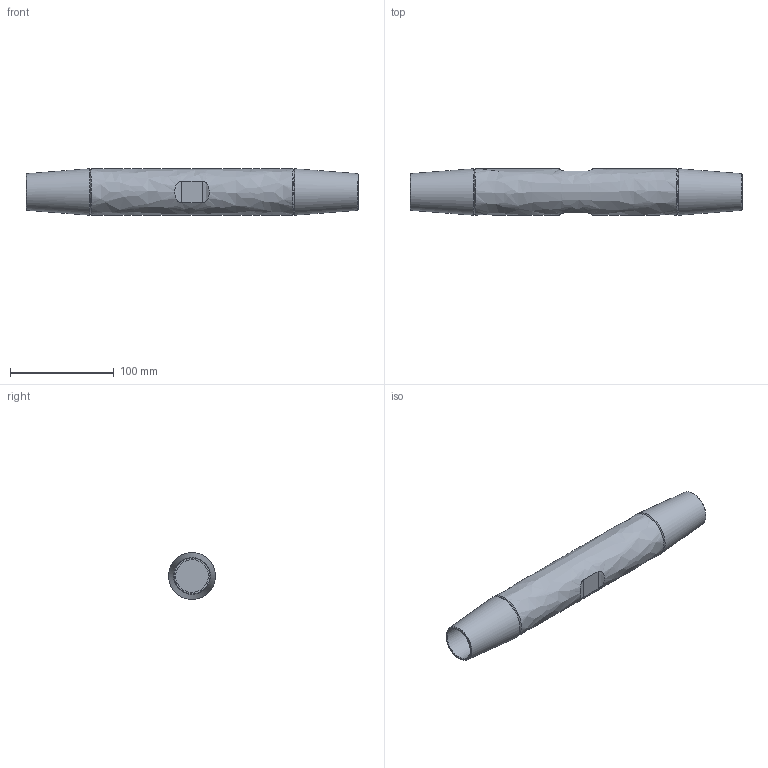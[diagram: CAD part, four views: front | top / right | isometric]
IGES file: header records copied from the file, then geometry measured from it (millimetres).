
Global section: file name: 520-030-MUF; native system: Autodesk Inventor 2016; preprocessor: unknown; author: Administrator; date: 20200630.131447; units: centimetre
Bounding box: 320 x 45 x 45 mm (x, y, z)
Volume: 393872 mm3; surface area: 54785.5 mm2
Topology: 1 solids, 1 shells, 21 faces, 53 edges, 37 vertices
Faces by surface type: bspline 21
